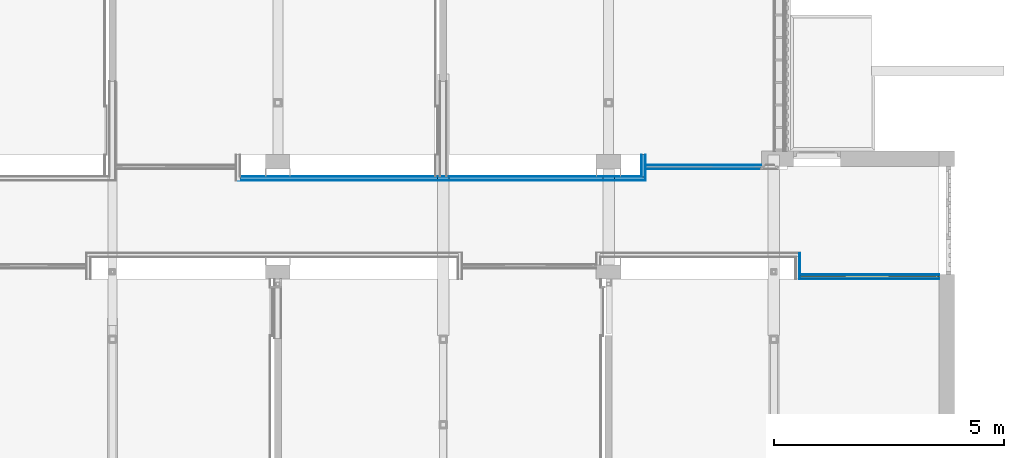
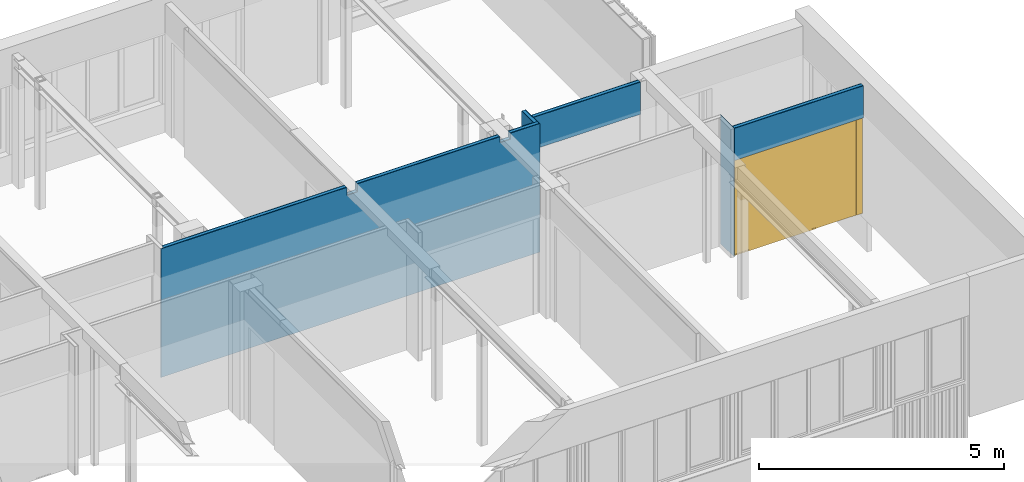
# One storey, part 69 of 99: 13 building element parts, 1 door, 2 openings, 5 elements without a shape of their own.
"""IFC2X3 building model written with IfcOpenShell, lengths in millimetres."""

from ifc_helpers import new_model, entity, si_unit, converted_unit, derived_unit, money_unit, direction, frame, origin_with_axes, place, context, subcontext, project, spatial, open_shell, faceted_brep, surface_model, material, type_object, element, fill, aggregate, save


model = new_model("IFC2X3")

# Units and contexts
model_context = context("Model", 3, precision=0.01, world=origin_with_axes(), true_north=direction((0.0, 1.0)))
body_context = subcontext(model_context, "Body", "Model", "MODEL_VIEW")
ifc_project = project(units=[si_unit("LENGTHUNIT", "METRE", prefix="MILLI"), si_unit("AREAUNIT", "SQUARE_METRE"), si_unit("VOLUMEUNIT", "CUBIC_METRE"), converted_unit("PLANEANGLEUNIT", "DEGREE", entity("IfcPlaneAngleMeasure", 0.0174532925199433), si_unit("PLANEANGLEUNIT", "RADIAN"), dimensions=[0, 0, 0, 0, 0, 0, 0]), money_unit("EUR"), converted_unit("TIMEUNIT", "Year", entity("IfcTimeMeasure", 31557600.0), si_unit("TIMEUNIT", "SECOND"), dimensions=[0, 0, 1, 0, 0, 0, 0]), si_unit("MASSUNIT", "GRAM", prefix="KILO"), si_unit("THERMODYNAMICTEMPERATUREUNIT", "DEGREE_CELSIUS"), si_unit("LUMINOUSINTENSITYUNIT", "LUMEN"), si_unit("ENERGYUNIT", "JOULE", prefix="MEGA"), derived_unit("THERMALCONDUCTANCEUNIT", [(si_unit("POWERUNIT", "WATT"), 1), (si_unit("LENGTHUNIT", "METRE"), -1), (si_unit("THERMODYNAMICTEMPERATUREUNIT", "KELVIN"), -1)]), derived_unit("SPECIFICHEATCAPACITYUNIT", [(si_unit("ENERGYUNIT", "JOULE"), 1), (si_unit("MASSUNIT", "GRAM", prefix="KILO"), -1), (si_unit("THERMODYNAMICTEMPERATUREUNIT", "KELVIN"), -1)]), derived_unit("MASSDENSITYUNIT", [(si_unit("MASSUNIT", "GRAM", prefix="KILO"), 1), (si_unit("VOLUMEUNIT", "CUBIC_METRE"), -1)])], contexts=[model_context])

# Site, building, storey
site_placement = place(None, origin_with_axes())
site = spatial("IfcSite", under=ifc_project, at=site_placement, Name="Site", CompositionType="ELEMENT")
building_placement = place(site_placement, origin_with_axes())
building = spatial("IfcBuilding", under=site, at=building_placement, Name="Naam gebouw", CompositionType="ELEMENT")
storey_placement = place(building_placement, frame((0.0, 0.0, 7650.0), z_axis=(0.0, 0.0, 1.0), x_axis=(1.0, 0.0, 0.0)))
storey = spatial("IfcBuildingStorey", under=building, at=storey_placement, Name="2e verdieping N", CompositionType="ELEMENT", Elevation=7650.0)

# Door
door_style = type_object("IfcDoorStyle", Name="D1 zl2 27", ConstructionType="NOTDEFINED", OperationType="USERDEFINED", ParameterTakesPrecedence=False, Sizeable=False)
wall_1_placement = place(storey_placement, frame((54569.99999999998, 17920.91242510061, 0.0), z_axis=(0.0, 0.0, 1.0), x_axis=(1.0, 0.0, 0.0)))
opening_1_placement = place(wall_1_placement, frame((1515.000000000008, 0.0, 0.0), z_axis=(0.0, 0.0, 1.0), x_axis=(1.0, 0.0, 0.0)))
door_placement = place(opening_1_placement, frame((1515.000000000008, 0.0, 0.0), z_axis=(0.0, 0.0, 1.0), x_axis=(-1.0, 0.0, 0.0)))
door = element("IfcDoor", 1, at=door_placement, inside=storey, type_object=door_style, Name="_Merk-x", ObjectType="DOOR", OverallHeight=2400.0, OverallWidth=3030.0, context=body_context, shape_type="SurfaceModel", body=[
    faceted_brep([(3030.000000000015, 10.00000000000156, 0.0), (3030.000000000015, -9.99999999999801, 0.0), (3000.000000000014, -9.99999999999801, 0.0), (3000.000000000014, 10.00000000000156, 0.0), (3030.000000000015, 10.00000000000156, 2369.999999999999), (3030.000000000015, -9.99999999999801, 2369.999999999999), (3000.000000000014, -9.99999999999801, 2369.999999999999), (3000.000000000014, -9.99999999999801, 30.00000000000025), (3000.000000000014, 10.00000000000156, 30.00000000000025), (3000.000000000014, 10.00000000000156, 2369.999999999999)], [[[0, 1, 2, 3]], [[4, 5, 1, 0]], [[1, 5, 6, 7, 2]], [[3, 2, 7, 8]], [[0, 3, 8, 9, 4]], [[9, 6, 5, 4]], [[8, 7, 6, 9]]]),
    faceted_brep([(1060.000000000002, -8.999999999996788, 0.0), (1060.000000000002, -9.99999999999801, 0.0), (1060.000000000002, -9.99999999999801, 2369.999999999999), (1060.000000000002, -8.999999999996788, 2369.999999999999), (1076.999999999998, -8.999999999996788, 0.0), (1076.999999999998, 10.00000000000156, 0.0), (1089.999999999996, 10.00000000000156, 0.0), (1089.999999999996, -9.99999999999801, 0.0), (1089.999999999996, -9.99999999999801, 30.00000000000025), (1089.999999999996, -9.99999999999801, 2369.999999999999), (1076.999999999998, -8.999999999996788, 2369.999999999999), (1089.999999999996, 10.00000000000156, 2369.999999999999), (1076.999999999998, 10.00000000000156, 2369.999999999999), (1089.999999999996, 10.00000000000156, 30.00000000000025)], [[[0, 1, 2, 3]], [[4, 5, 6, 7, 1, 0]], [[7, 8, 9, 2, 1]], [[10, 3, 2, 9, 11, 12]], [[10, 4, 0, 3]], [[12, 5, 4, 10]], [[12, 11, 13, 6, 5]], [[6, 13, 8, 7]], [[13, 11, 9, 8]]]),
    faceted_brep([(3000.000000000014, 10.00000000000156, 30.00000000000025), (3000.000000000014, -9.99999999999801, 30.00000000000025), (3000.000000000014, -9.99999999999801, 0.0), (3000.000000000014, 10.00000000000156, 0.0), (1089.999999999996, 10.00000000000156, 30.00000000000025), (1089.999999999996, -9.99999999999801, 30.00000000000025), (1089.999999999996, -9.99999999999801, 0.0), (1089.999999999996, 10.00000000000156, 0.0)], [[[0, 1, 2, 3]], [[4, 5, 1, 0]], [[1, 5, 6, 2]], [[3, 2, 6, 7]], [[0, 3, 7, 4]], [[7, 6, 5, 4]]]),
    faceted_brep([(0.0, 10.00000000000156, 0.0), (0.0, -9.99999999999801, 0.0), (0.0, -9.99999999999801, 2369.999999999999), (0.0, 10.00000000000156, 2369.999999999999), (30.00000000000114, 10.00000000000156, 0.0), (30.00000000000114, -9.99999999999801, 0.0), (30.00000000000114, -9.99999999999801, 30.00000000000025), (30.00000000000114, -9.99999999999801, 2369.999999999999), (30.00000000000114, 10.00000000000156, 2369.999999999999), (30.00000000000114, 10.00000000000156, 30.00000000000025)], [[[0, 1, 2, 3]], [[4, 5, 1, 0]], [[1, 5, 6, 7, 2]], [[3, 2, 7, 8]], [[0, 3, 8, 9, 4]], [[9, 6, 5, 4]], [[8, 7, 6, 9]]]),
    faceted_brep([(143.0000000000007, -8.999999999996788, 2369.999999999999), (143.0000000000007, 10.00000000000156, 2369.999999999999), (130.0000000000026, 10.00000000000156, 2369.999999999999), (130.0000000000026, -9.99999999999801, 2369.999999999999), (159.9999999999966, -9.99999999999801, 2369.999999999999), (159.9999999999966, -8.999999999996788, 2369.999999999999), (143.0000000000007, -8.999999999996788, 0.0), (143.0000000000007, 10.00000000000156, 0.0), (130.0000000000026, 10.00000000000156, 0.0), (130.0000000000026, 10.00000000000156, 30.00000000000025), (130.0000000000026, -9.99999999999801, 30.00000000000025), (159.9999999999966, -9.99999999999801, 0.0), (130.0000000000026, -9.99999999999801, 0.0), (159.9999999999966, -8.999999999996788, 0.0)], [[[0, 1, 2, 3, 4, 5]], [[0, 6, 7, 1]], [[7, 8, 9, 2, 1]], [[2, 9, 10, 3]], [[11, 4, 3, 10, 12]], [[5, 4, 11, 13]], [[5, 13, 6, 0]], [[6, 13, 11, 12, 8, 7]], [[9, 8, 12, 10]]]),
    faceted_brep([(130.0000000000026, 10.00000000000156, 30.00000000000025), (130.0000000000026, -9.99999999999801, 30.00000000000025), (130.0000000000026, -9.99999999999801, 0.0), (130.0000000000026, 10.00000000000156, 0.0), (30.00000000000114, 10.00000000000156, 30.00000000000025), (30.00000000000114, -9.99999999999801, 30.00000000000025), (30.00000000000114, -9.99999999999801, 0.0), (30.00000000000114, 10.00000000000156, 0.0)], [[[0, 1, 2, 3]], [[4, 5, 1, 0]], [[1, 5, 6, 2]], [[3, 2, 6, 7]], [[0, 3, 7, 4]], [[7, 6, 5, 4]]]),
    faceted_brep([(1076.999999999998, 10.00000000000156, 2387.0), (143.0000000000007, 10.00000000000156, 2387.0), (143.0000000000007, 10.00000000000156, 2369.999999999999), (130.0000000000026, 10.00000000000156, 2369.999999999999), (30.00000000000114, 10.00000000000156, 2369.999999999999), (0.0, 10.00000000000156, 2369.999999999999), (0.0, 10.00000000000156, 2400.0), (3030.000000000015, 10.00000000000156, 2400.0), (3030.000000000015, 10.00000000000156, 2369.999999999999), (3000.000000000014, 10.00000000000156, 2369.999999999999), (1089.999999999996, 10.00000000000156, 2369.999999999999), (1076.999999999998, 10.00000000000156, 2369.999999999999), (1076.999999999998, -8.999999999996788, 2387.0), (143.0000000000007, -8.999999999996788, 2387.0), (143.0000000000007, -8.999999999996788, 2369.999999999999), (159.9999999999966, -8.999999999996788, 2369.999999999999), (159.9999999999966, -9.99999999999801, 2369.999999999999), (130.0000000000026, -9.99999999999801, 2369.999999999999), (30.00000000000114, -9.99999999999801, 2369.999999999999), (0.0, -9.99999999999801, 2369.999999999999), (0.0, -9.99999999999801, 2400.0), (3030.000000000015, -9.99999999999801, 2400.0), (3030.000000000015, -9.99999999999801, 2369.999999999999), (3000.000000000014, -9.99999999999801, 2369.999999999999), (1089.999999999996, -9.99999999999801, 2369.999999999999), (1076.999999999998, -8.999999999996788, 2369.999999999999), (1060.000000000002, -9.99999999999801, 2369.999999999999)], [[[0, 1, 2, 3, 4, 5, 6, 7, 8, 9, 10, 11]], [[0, 12, 13, 1]], [[1, 13, 14, 2]], [[14, 15, 16, 17, 18, 4, 3, 2]], [[5, 4, 18, 19]], [[6, 5, 19, 20]], [[7, 6, 20, 21]], [[8, 7, 21, 22]], [[9, 8, 22, 23]], [[10, 9, 23, 24]], [[25, 11, 10, 24, 26, 16, 15]], [[11, 25, 12, 0]], [[14, 13, 12, 25, 15]], [[18, 17, 16, 26, 24, 23, 22, 21, 20, 19]]]),
    faceted_brep([(143.0000000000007, 1.000000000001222, 0.0), (1076.999999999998, 1.000000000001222, 0.0), (1076.999999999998, -8.999999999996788, 0.0), (143.0000000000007, -8.999999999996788, 0.0), (143.0000000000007, 1.000000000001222, 2387.0), (1076.999999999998, 1.000000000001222, 2387.0), (1076.999999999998, -9.000000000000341, 2387.0), (143.0000000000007, -8.999999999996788, 2387.0)], [[[0, 1, 2, 3]], [[0, 4, 5, 1]], [[1, 5, 6, 2]], [[3, 2, 6, 7]], [[4, 0, 3, 7]], [[5, 4, 7, 6]]]),
    surface_model("IfcShellBasedSurfaceModel", [(3000.000000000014, 9.000000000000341, 30.00000000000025), (1089.999999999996, 9.000000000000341, 30.00000000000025), (1089.999999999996, 9.000000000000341, 2369.999999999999), (3000.000000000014, 9.000000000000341, 2369.999999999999)], [open_shell([[[0, 1, 2, 3]]])]),
    surface_model("IfcShellBasedSurfaceModel", [(3000.000000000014, 1.000000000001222, 30.00000000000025), (3000.000000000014, 1.000000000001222, 2369.999999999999), (1089.999999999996, 1.000000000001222, 2369.999999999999), (1089.999999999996, 1.000000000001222, 30.00000000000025)], [open_shell([[[0, 1, 2, 3]]])]),
    surface_model("IfcShellBasedSurfaceModel", [(130.0000000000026, 9.000000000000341, 30.00000000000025), (30.00000000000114, 9.000000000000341, 30.00000000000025), (30.00000000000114, 9.000000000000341, 2369.999999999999), (130.0000000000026, 9.000000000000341, 2369.999999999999)], [open_shell([[[0, 1, 2, 3]]])]),
    surface_model("IfcShellBasedSurfaceModel", [(130.0000000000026, 1.000000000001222, 30.00000000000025), (130.0000000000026, 1.000000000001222, 2369.999999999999), (30.00000000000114, 1.000000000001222, 2369.999999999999), (30.00000000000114, 1.000000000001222, 30.00000000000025)], [open_shell([[[0, 1, 2, 3]]])]),
])

# Wall, opening
wall_type = type_object("IfcWallType", Name="Metalstud iso 100 100", PredefinedType="NOTDEFINED")
wall_1 = element("IfcWall", 2, at=wall_1_placement, inside=storey, type_object=wall_type, Name="_Wand-x")
opening_1 = element("IfcOpeningElement", 3, at=opening_1_placement, cuts=wall_1, Name="_Merk-x", context=body_context, shape_type="Brep", body=[
    faceted_brep([(1515.000000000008, -10.00000000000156, 0.0), (1515.000000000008, -10.00000000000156, 2400.0), (1515.000000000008, -51.00000000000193, 2400.0), (1515.000000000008, -51.00000000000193, 0.0), (1515.000000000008, 51.00000000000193, 0.0), (1515.000000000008, 51.00000000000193, 2400.0), (-1515.000000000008, -10.00000000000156, 2400.0), (-1515.000000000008, -51.00000000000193, 2400.0), (-1515.000000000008, 51.00000000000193, 2400.0), (-1515.000000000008, -51.00000000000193, 0.0), (-1515.000000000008, -10.00000000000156, 0.0), (-1515.000000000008, 51.00000000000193, 0.0)], [[[0, 1, 2, 3]], [[1, 0, 4, 5]], [[6, 7, 2, 1, 5, 8]], [[7, 9, 3, 2]], [[0, 3, 9, 10, 11, 4]], [[5, 4, 11, 8]], [[6, 10, 9, 7]], [[10, 6, 8, 11]]]),
])

fill(opening_1, door)

# Building element part
ifc_material_1 = material(Name="Gipsplaat")
building_element_part_1_placement = place(wall_1_placement, origin_with_axes())
building_element_part_1 = element("IfcBuildingElementPart", 4, at=building_element_part_1_placement, material=ifc_material_1, Name="Gipsplaat", context=body_context, shape_type="Brep", body=[
    faceted_brep([(3030.000000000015, 37.50000000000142, 2400.0), (3030.000000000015, 50.00000000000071, 2400.0), (3030.000000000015, 50.00000000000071, 3199.999999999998), (3030.000000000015, 37.50000000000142, 3199.999999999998), (0.0, 50.00000000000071, 2400.0), (0.0, 37.50000000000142, 2400.0), (0.0, 50.00000000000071, 3199.999999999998), (0.0, 37.50000000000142, 3199.999999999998)], [[[0, 1, 2, 3]], [[4, 1, 0, 5]], [[1, 4, 6, 2]], [[6, 7, 3, 2]], [[5, 0, 3, 7]], [[4, 5, 7, 6]]]),
])

building_element_part_2_placement = place(wall_1_placement, origin_with_axes())
building_element_part_2 = element("IfcBuildingElementPart", 5, at=building_element_part_2_placement, material=ifc_material_1, Name="Gipsplaat", context=body_context, shape_type="Brep", body=[
    faceted_brep([(3030.000000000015, -50.00000000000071, 2400.0), (3030.000000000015, -37.49999999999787, 2400.0), (3030.000000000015, -37.49999999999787, 3199.999999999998), (3030.000000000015, -50.00000000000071, 3199.999999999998), (0.0, -37.50000000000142, 2400.0), (0.0, -50.00000000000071, 2400.0), (0.0, -37.50000000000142, 3199.999999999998), (0.0, -50.00000000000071, 3199.999999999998)], [[[0, 1, 2, 3]], [[4, 1, 0, 5]], [[1, 4, 6, 2]], [[6, 7, 3, 2]], [[5, 0, 3, 7]], [[4, 5, 7, 6]]]),
])

ifc_material_2 = material(Name="Isolatie - Steenwol LSW")
building_element_part_3_placement = place(wall_1_placement, origin_with_axes())
building_element_part_3 = element("IfcBuildingElementPart", 6, at=building_element_part_3_placement, material=ifc_material_2, Name="Isolatie - Steenwol LSW", context=body_context, shape_type="Brep", body=[
    faceted_brep([(3030.000000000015, -10.00000000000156, 2400.0), (3030.000000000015, 37.50000000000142, 2400.0), (3030.000000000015, 37.50000000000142, 3199.999999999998), (3030.000000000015, -37.49999999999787, 3199.999999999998), (3030.000000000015, -37.49999999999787, 2400.0), (0.0, -10.00000000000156, 2400.0), (0.0, 37.50000000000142, 2400.0), (0.0, -37.50000000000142, 2400.0), (0.0, 37.50000000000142, 3199.999999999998), (0.0, -37.50000000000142, 3199.999999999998)], [[[0, 1, 2, 3, 4]], [[5, 6, 1, 0, 4, 7]], [[1, 6, 8, 2]], [[9, 3, 2, 8]], [[4, 3, 9, 7]], [[6, 5, 7, 9, 8]]]),
])

aggregate(wall_1, [building_element_part_1, building_element_part_2, building_element_part_3])

# Wall, building element part
wall_2_placement = place(storey_placement, frame((54469.99999999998, 17870.91242510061, 0.0), z_axis=(0.0, 0.0, 1.0), x_axis=(0.0, 1.0, 0.0)))
wall_2 = element("IfcWall", 7, at=wall_2_placement, inside=storey, type_object=wall_type, Name="_Wand-x")
building_element_part_4_placement = place(wall_2_placement, origin_with_axes())
building_element_part_4 = element("IfcBuildingElementPart", 8, at=building_element_part_4_placement, material=ifc_material_1, Name="Gipsplaat", context=body_context, shape_type="Brep", body=[
    faceted_brep([(562.499999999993, -100.0000000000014, 0.0), (0.0, -100.0000000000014, 0.0), (0.0, -87.49999999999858, 0.0), (562.499999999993, -87.49999999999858, 0.0), (562.499999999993, -100.0000000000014, 3199.999999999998), (0.0, -100.0000000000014, 3199.999999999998), (0.0, -87.49999999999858, 3199.999999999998), (562.499999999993, -87.49999999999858, 3199.999999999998)], [[[0, 1, 2, 3]], [[4, 5, 1, 0]], [[2, 1, 5, 6]], [[3, 2, 6, 7]], [[3, 7, 4, 0]], [[7, 6, 5, 4]]]),
])
aggregate(wall_2, [building_element_part_4])

# Wall, opening, building element parts
wall_3_placement = place(storey_placement, frame((51215.00000000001, 20305.91242510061, 0.0), z_axis=(0.0, 0.0, 1.0), x_axis=(1.0, 0.0, 0.0)))
wall_3 = element("IfcWall", 9, at=wall_3_placement, inside=storey, type_object=wall_type, Name="_Wand-x")
opening_2_placement = place(wall_3_placement, frame((1257.499999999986, 0.0, 0.0), z_axis=(0.0, 0.0, 1.0), x_axis=(1.0, 0.0, 0.0)))
element("IfcOpeningElement", 10, at=opening_2_placement, cuts=wall_3, Name="_Merk-x", context=body_context, shape_type="Brep", body=[
    faceted_brep([(1257.499999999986, -10.00000000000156, 0.0), (1257.499999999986, -10.00000000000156, 2400.0), (1257.499999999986, -51.00000000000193, 2400.0), (1257.499999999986, -51.00000000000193, 0.0), (1257.499999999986, 51.00000000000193, 0.0), (1257.499999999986, 51.00000000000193, 2400.0), (-1257.499999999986, -10.00000000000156, 2400.0), (-1257.499999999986, -51.00000000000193, 2400.0), (-1257.499999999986, 51.00000000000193, 2400.0), (-1257.499999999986, -51.00000000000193, 0.0), (-1257.499999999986, -10.00000000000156, 0.0), (-1257.499999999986, 51.00000000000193, 0.0)], [[[0, 1, 2, 3]], [[1, 0, 4, 5]], [[6, 7, 2, 1, 5, 8]], [[7, 9, 3, 2]], [[0, 3, 9, 10, 11, 4]], [[5, 4, 11, 8]], [[6, 10, 9, 7]], [[10, 6, 8, 11]]]),
])
building_element_part_5_placement = place(wall_3_placement, origin_with_axes())
building_element_part_5 = element("IfcBuildingElementPart", 11, at=building_element_part_5_placement, material=ifc_material_1, Name="Gipsplaat", context=body_context, shape_type="Brep", body=[
    faceted_brep([(2514.999999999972, 37.50000000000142, 2400.0), (2514.999999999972, 50.00000000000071, 2400.0), (2514.999999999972, 50.00000000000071, 3199.999999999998), (2514.999999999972, 37.50000000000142, 3199.999999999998), (0.0, 50.00000000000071, 2400.0), (0.0, 37.50000000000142, 2400.0), (0.0, 50.00000000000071, 3199.999999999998), (0.0, 37.50000000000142, 3199.999999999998)], [[[0, 1, 2, 3]], [[4, 1, 0, 5]], [[1, 4, 6, 2]], [[6, 7, 3, 2]], [[5, 0, 3, 7]], [[4, 5, 7, 6]]]),
])
building_element_part_6_placement = place(wall_3_placement, origin_with_axes())
building_element_part_6 = element("IfcBuildingElementPart", 12, at=building_element_part_6_placement, material=ifc_material_1, Name="Gipsplaat", context=body_context, shape_type="Brep", body=[
    faceted_brep([(2514.999999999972, -50.00000000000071, 2400.0), (2514.999999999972, -37.49999999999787, 2400.0), (2514.999999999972, -37.49999999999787, 3199.999999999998), (2514.999999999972, -50.00000000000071, 3199.999999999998), (0.0, -37.50000000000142, 2400.0), (0.0, -50.00000000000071, 2400.0), (0.0, -37.50000000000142, 3199.999999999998), (0.0, -50.00000000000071, 3199.999999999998)], [[[0, 1, 2, 3]], [[4, 1, 0, 5]], [[1, 4, 6, 2]], [[6, 7, 3, 2]], [[5, 0, 3, 7]], [[4, 5, 7, 6]]]),
])
building_element_part_7_placement = place(wall_3_placement, origin_with_axes())
building_element_part_7 = element("IfcBuildingElementPart", 13, at=building_element_part_7_placement, material=ifc_material_2, Name="Isolatie - Steenwol LSW", context=body_context, shape_type="Brep", body=[
    faceted_brep([(2514.999999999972, -10.00000000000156, 2400.0), (2514.999999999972, 37.50000000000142, 2400.0), (2514.999999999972, 37.50000000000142, 3199.999999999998), (2514.999999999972, -37.49999999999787, 3199.999999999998), (2514.999999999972, -37.49999999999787, 2400.0), (0.0, -10.00000000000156, 2400.0), (0.0, 37.50000000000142, 2400.0), (0.0, -37.50000000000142, 2400.0), (0.0, 37.50000000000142, 3199.999999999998), (0.0, -37.50000000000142, 3199.999999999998)], [[[0, 1, 2, 3, 4]], [[5, 6, 1, 0, 4, 7]], [[1, 6, 8, 2]], [[9, 3, 2, 8]], [[4, 3, 9, 7]], [[6, 5, 7, 9, 8]]]),
])
aggregate(wall_3, [building_element_part_5, building_element_part_6, building_element_part_7])

# Wall, building element parts
wall_4_placement = place(storey_placement, frame((51115.00000000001, 20580.91242510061, 0.0), z_axis=(0.0, 0.0, 1.0), x_axis=(0.0, -1.0, 0.0)))
wall_4 = element("IfcWall", 14, at=wall_4_placement, inside=storey, type_object=wall_type, Name="_Wand-x")
building_element_part_8_placement = place(wall_4_placement, origin_with_axes())
building_element_part_8 = element("IfcBuildingElementPart", 15, at=building_element_part_8_placement, material=ifc_material_1, Name="Gipsplaat", context=body_context, shape_type="Brep", body=[
    faceted_brep([(562.499999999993, 100.0000000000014, 3199.999999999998), (0.0, 100.0000000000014, 3199.999999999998), (0.0, 87.49999999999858, 3199.999999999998), (562.499999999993, 87.49999999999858, 3199.999999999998), (562.499999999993, 100.0000000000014, 0.0), (0.0, 100.0000000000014, 0.0), (0.0, 87.49999999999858, 0.0), (562.499999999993, 87.49999999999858, 0.0)], [[[0, 1, 2, 3]], [[4, 5, 1, 0]], [[2, 1, 5, 6]], [[3, 2, 6, 7]], [[3, 7, 4, 0]], [[7, 6, 5, 4]]]),
])
building_element_part_9_placement = place(wall_4_placement, origin_with_axes())
building_element_part_9 = element("IfcBuildingElementPart", 16, at=building_element_part_9_placement, material=ifc_material_2, Name="Isolatie - Steenwol LSW", context=body_context, shape_type="Brep", body=[
    faceted_brep([(487.4999999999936, 87.49999999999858, 3199.999999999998), (0.0, 87.49999999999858, 3199.999999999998), (0.0, 12.50000000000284, 3199.999999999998), (487.4999999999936, 12.50000000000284, 3199.999999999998), (487.4999999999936, 87.49999999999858, 0.0), (0.0, 87.49999999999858, 0.0), (0.0, 12.50000000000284, 0.0), (487.4999999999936, 12.50000000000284, 0.0)], [[[0, 1, 2, 3]], [[4, 5, 1, 0]], [[2, 1, 5, 6]], [[3, 2, 6, 7]], [[3, 7, 4, 0]], [[7, 6, 5, 4]]]),
])

# Wall, building element part
wall_5_placement = place(storey_placement, frame((42385.0, 20105.91242510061, 0.0), z_axis=(0.0, 0.0, 1.0), x_axis=(1.0, 0.0, 0.0)))
wall_5 = element("IfcWall", 17, at=wall_5_placement, inside=storey, type_object=wall_type, Name="_Wand-x")
building_element_part_10_placement = place(wall_5_placement, origin_with_axes())
building_element_part_10 = element("IfcBuildingElementPart", 18, at=building_element_part_10_placement, material=ifc_material_1, Name="Gipsplaat", context=body_context, shape_type="Brep", body=[
    faceted_brep([(4290.000000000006, 0.0, 2999.999999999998), (4540.000000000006, 0.0, 2999.999999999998), (4540.000000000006, 0.0, 3199.999999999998), (7889.999999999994, 0.0, 3199.999999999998), (7889.999999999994, 0.0, 3049.999999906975), (8139.999999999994, 0.0, 3049.999999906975), (8139.999999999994, 0.0, 3199.999999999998), (8742.500000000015, 0.0, 3199.999999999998), (8742.500000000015, 0.0, 0.0), (0.0, 0.0, 0.0), (0.0, 0.0, 3199.999999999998), (4290.000000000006, 0.0, 3199.999999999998), (4290.000000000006, -12.49999999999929, 2999.999999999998), (4540.000000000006, -12.49999999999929, 2999.999999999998), (4540.000000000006, -12.49999999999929, 3199.999999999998), (7889.999999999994, -12.49999999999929, 3199.999999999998), (7889.999999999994, -12.49999999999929, 3049.999999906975), (8139.999999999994, -12.49999999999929, 3049.999999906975), (8139.999999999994, -12.49999999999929, 3199.999999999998), (8742.500000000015, -12.49999999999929, 3199.999999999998), (8742.500000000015, -12.49999999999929, 0.0), (0.0, -12.49999999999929, 0.0), (0.0, -12.49999999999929, 3199.999999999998), (4290.000000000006, -12.49999999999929, 3199.999999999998)], [[[0, 1, 2, 3, 4, 5, 6, 7, 8, 9, 10, 11]], [[1, 0, 12, 13]], [[14, 2, 1, 13]], [[2, 14, 15, 3]], [[4, 3, 15, 16]], [[5, 4, 16, 17]], [[18, 6, 5, 17]], [[6, 18, 19, 7]], [[20, 8, 7, 19]], [[8, 20, 21, 9]], [[10, 9, 21, 22]], [[23, 11, 10, 22]], [[0, 11, 23, 12]], [[12, 23, 22, 21, 20, 19, 18, 17, 16, 15, 14, 13]]]),
])

# Building element part
building_element_part_11_placement = place(wall_4_placement, origin_with_axes())
building_element_part_11 = element("IfcBuildingElementPart", 19, at=building_element_part_11_placement, material=ifc_material_1, Name="Gipsplaat", context=body_context, shape_type="Brep", body=[
    faceted_brep([(474.9999999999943, 12.50000000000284, 3199.999999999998), (0.0, 12.50000000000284, 3199.999999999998), (0.0, 0.0, 3199.999999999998), (474.9999999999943, 0.0, 3199.999999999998), (474.9999999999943, 12.50000000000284, 0.0), (0.0, 12.50000000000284, 0.0), (0.0, 0.0, 0.0), (474.9999999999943, 0.0, 0.0)], [[[0, 1, 2, 3]], [[4, 5, 1, 0]], [[2, 1, 5, 6]], [[3, 2, 6, 7]], [[3, 7, 4, 0]], [[7, 6, 5, 4]]]),
])

aggregate(wall_4, [building_element_part_8, building_element_part_9, building_element_part_11])

building_element_part_12_placement = place(wall_5_placement, origin_with_axes())
building_element_part_12 = element("IfcBuildingElementPart", 20, at=building_element_part_12_placement, material=ifc_material_2, Name="Isolatie - Steenwol LSW", context=body_context, shape_type="Brep", body=[
    faceted_brep([(4290.000000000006, -12.49999999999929, 2999.999999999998), (4540.000000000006, -12.49999999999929, 2999.999999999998), (4540.000000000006, -12.49999999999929, 3199.999999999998), (7889.999999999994, -12.49999999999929, 3199.999999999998), (7889.999999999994, -12.49999999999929, 3049.999999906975), (8139.999999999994, -12.49999999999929, 3049.999999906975), (8139.999999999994, -12.49999999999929, 3199.999999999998), (8817.50000000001, -12.49999999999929, 3199.999999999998), (8817.50000000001, -12.49999999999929, 0.0), (-12.50000000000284, -12.49999999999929, 0.0), (-12.50000000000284, -12.49999999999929, 3199.999999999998), (4290.000000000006, -12.49999999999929, 3199.999999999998), (4290.000000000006, -87.49999999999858, 2999.999999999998), (4540.000000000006, -87.49999999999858, 2999.999999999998), (4540.000000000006, -87.49999999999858, 3199.999999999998), (7889.999999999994, -87.49999999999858, 3199.999999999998), (7889.999999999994, -87.49999999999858, 3049.999999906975), (8139.999999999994, -87.49999999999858, 3049.999999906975), (8139.999999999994, -87.49999999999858, 3199.999999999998), (8817.50000000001, -87.49999999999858, 3199.999999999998), (8817.50000000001, -87.49999999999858, 0.0), (-12.50000000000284, -87.49999999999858, 0.0), (-12.50000000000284, -87.49999999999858, 3199.999999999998), (4290.000000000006, -87.49999999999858, 3199.999999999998)], [[[0, 1, 2, 3, 4, 5, 6, 7, 8, 9, 10, 11]], [[1, 0, 12, 13]], [[14, 2, 1, 13]], [[2, 14, 15, 3]], [[4, 3, 15, 16]], [[5, 4, 16, 17]], [[18, 6, 5, 17]], [[6, 18, 19, 7]], [[20, 8, 7, 19]], [[8, 20, 21, 9]], [[10, 9, 21, 22]], [[23, 11, 10, 22]], [[0, 11, 23, 12]], [[12, 23, 22, 21, 20, 19, 18, 17, 16, 15, 14, 13]]]),
])

building_element_part_13_placement = place(wall_5_placement, origin_with_axes())
building_element_part_13 = element("IfcBuildingElementPart", 21, at=building_element_part_13_placement, material=ifc_material_1, Name="Gipsplaat", context=body_context, shape_type="Brep", body=[
    faceted_brep([(4290.000000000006, -87.49999999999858, 2999.999999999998), (4540.000000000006, -87.49999999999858, 2999.999999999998), (4540.000000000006, -87.49999999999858, 3199.999999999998), (7889.999999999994, -87.49999999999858, 3199.999999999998), (7889.999999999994, -87.49999999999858, 3049.999999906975), (8139.999999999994, -87.49999999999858, 3049.999999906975), (8139.999999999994, -87.49999999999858, 3199.999999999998), (8830.000000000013, -87.49999999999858, 3199.999999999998), (8830.000000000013, -87.49999999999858, 0.0), (-87.49999999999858, -87.49999999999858, 0.0), (-87.49999999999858, -87.49999999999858, 3199.999999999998), (4290.000000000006, -87.49999999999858, 3199.999999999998), (4290.000000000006, -99.99999999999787, 2999.999999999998), (4540.000000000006, -99.99999999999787, 2999.999999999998), (4540.000000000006, -100.0000000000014, 3199.999999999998), (7889.999999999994, -99.99999999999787, 3199.999999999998), (7889.999999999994, -99.99999999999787, 3049.999999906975), (8139.999999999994, -99.99999999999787, 3049.999999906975), (8139.999999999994, -99.99999999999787, 3199.999999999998), (8830.000000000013, -99.99999999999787, 3199.999999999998), (8830.000000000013, -99.99999999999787, 0.0), (-87.49999999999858, -100.0000000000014, 0.0), (-87.49999999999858, -100.0000000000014, 3199.999999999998), (4290.000000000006, -100.0000000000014, 3199.999999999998)], [[[0, 1, 2, 3, 4, 5, 6, 7, 8, 9, 10, 11]], [[1, 0, 12, 13]], [[14, 2, 1, 13]], [[2, 14, 15, 3]], [[4, 3, 15, 16]], [[5, 4, 16, 17]], [[18, 6, 5, 17]], [[6, 18, 19, 7]], [[20, 8, 7, 19]], [[8, 20, 21, 9]], [[10, 9, 21, 22]], [[23, 11, 10, 22]], [[0, 11, 23, 12]], [[12, 23, 22, 21, 20, 19, 18, 17, 16, 15, 14, 13]]]),
])

aggregate(wall_5, [building_element_part_10, building_element_part_12, building_element_part_13])

save(model, "model.ifc")
